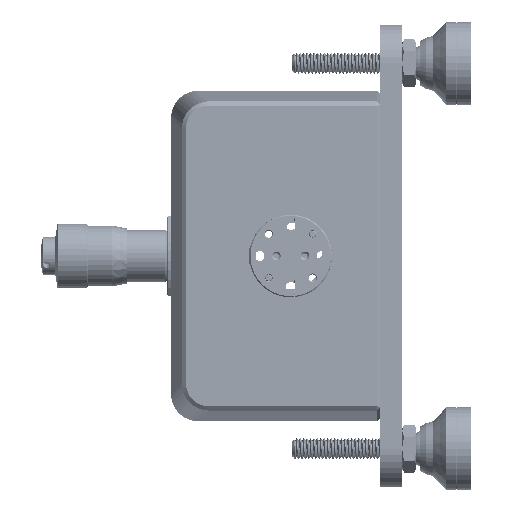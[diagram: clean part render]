
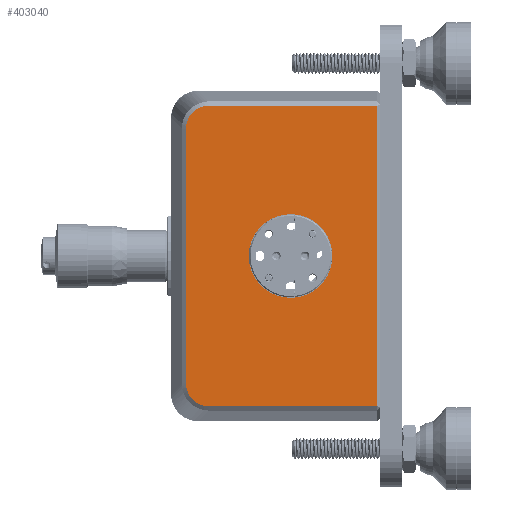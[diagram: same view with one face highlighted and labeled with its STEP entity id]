
A CAD part, left-side view. The second image highlights one B-rep face of the part: STEP entity #403040.
In plain terms, the highlighted planar face has unit normal (-1, 0, 0).
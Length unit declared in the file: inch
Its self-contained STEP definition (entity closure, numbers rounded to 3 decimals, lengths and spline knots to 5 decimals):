
#2801 = EDGE_CURVE ( 'NONE', #233888, #430731, #89693, .T. ) ;
#6025 = ORIENTED_EDGE ( 'NONE', *, *, #210479, .T. ) ;
#15592 = CARTESIAN_POINT ( 'NONE',  ( -4.25, -6.81171, 1.35964 ) ) ;
#16834 = EDGE_LOOP ( 'NONE', ( #356558, #6025, #86045, #141233, #225208, #369382 ) ) ;
#34963 = CARTESIAN_POINT ( 'NONE',  ( -4.25, -6.76124, -1.33884 ) ) ;
#39338 = LINE ( 'NONE', #339234, #397927 ) ;
#42676 = VERTEX_POINT ( 'NONE', #233859 ) ;
#44023 = CARTESIAN_POINT ( 'NONE',  ( -4.25, -6.6995, 1.28486 ) ) ;
#44945 = VECTOR ( 'NONE', #201628, 39.37008 ) ;
#48606 = AXIS2_PLACEMENT_3D ( 'NONE', #131659, #302181, #335109 ) ;
#48878 = VERTEX_POINT ( 'NONE', #101968 ) ;
#61180 = ORIENTED_EDGE ( 'NONE', *, *, #339350, .F. ) ;
#65697 = CARTESIAN_POINT ( 'NONE',  ( -4.25, -6.65778, -1.18364 ) ) ;
#67830 = CARTESIAN_POINT ( 'NONE',  ( -4.25, -6.738, -1.32336 ) ) ;
#71740 = B_SPLINE_CURVE_WITH_KNOTS ( 'NONE', 3,
 ( #147019, #144863, #15592, #313165, #208186, #44023, #177657, #413950, #278130, #114047 ),
 .UNSPECIFIED., .F., .F.,
 ( 4, 2, 2, 2, 4 ),
 ( 0., 0.25, 0.5, 0.75, 1. ),
 .UNSPECIFIED. ) ;
#86045 = ORIENTED_EDGE ( 'NONE', *, *, #2801, .T. ) ;
#89693 = LINE ( 'NONE', #258097, #328156 ) ;
#100655 = CARTESIAN_POINT ( 'NONE',  ( -4.25, -6.66321, -1.21114 ) ) ;
#101726 = LINE ( 'NONE', #235192, #252853 ) ;
#101968 = CARTESIAN_POINT ( 'NONE',  ( -4.25, -6.8667, 1.36508 ) ) ;
#114047 = CARTESIAN_POINT ( 'NONE',  ( -4.25, -6.65778, 1.15616 ) ) ;
#122862 = CARTESIAN_POINT ( 'NONE',  ( -4.25, -7.60786, 0.38 ) ) ;
#126834 = B_SPLINE_CURVE_WITH_KNOTS ( 'NONE', 3,
 ( #400547, #65697, #100655, #199189, #367630, #67830, #34963, #168599, #269073, #301950 ),
 .UNSPECIFIED., .F., .F.,
 ( 4, 2, 2, 2, 4 ),
 ( 0., 0.25, 0.5, 0.75, 1. ),
 .UNSPECIFIED. ) ;
#131659 = CARTESIAN_POINT ( 'NONE',  ( -4.25, -7.60786, 0. ) ) ;
#135782 = ORIENTED_EDGE ( 'NONE', *, *, #399791, .F. ) ;
#138609 = CARTESIAN_POINT ( 'NONE',  ( -4.25, -6.65778, -1.15616 ) ) ;
#141233 = ORIENTED_EDGE ( 'NONE', *, *, #248033, .T. ) ;
#144863 = CARTESIAN_POINT ( 'NONE',  ( -4.25, -6.83921, 1.36508 ) ) ;
#147019 = CARTESIAN_POINT ( 'NONE',  ( -4.25, -6.8667, 1.36508 ) ) ;
#149469 = DIRECTION ( 'NONE',  ( 0., 0., 1. ) ) ;
#155838 = CARTESIAN_POINT ( 'NONE',  ( -4.25, -6.8667, -1.36508 ) ) ;
#156044 = VERTEX_POINT ( 'NONE', #155838 ) ;
#159727 = DIRECTION ( 'NONE',  ( 0., 0., 1. ) ) ;
#165903 = VERTEX_POINT ( 'NONE', #138609 ) ;
#168599 = CARTESIAN_POINT ( 'NONE',  ( -4.25, -6.81171, -1.35965 ) ) ;
#168885 = CARTESIAN_POINT ( 'NONE',  ( -4.25, -7.47286, 1.36508 ) ) ;
#177657 = CARTESIAN_POINT ( 'NONE',  ( -4.25, -6.68401, 1.26162 ) ) ;
#178336 = DIRECTION ( 'NONE',  ( 0., 0., -1. ) ) ;
#187867 = CARTESIAN_POINT ( 'NONE',  ( -4.25, -8.39286, 1.36508 ) ) ;
#189812 = VERTEX_POINT ( 'NONE', #122862 ) ;
#198163 = FACE_OUTER_BOUND ( 'NONE', #16834, .T. ) ;
#199189 = CARTESIAN_POINT ( 'NONE',  ( -4.25, -6.68401, -1.26162 ) ) ;
#201628 = DIRECTION ( 'NONE',  ( 0., 1., 0. ) ) ;
#208186 = CARTESIAN_POINT ( 'NONE',  ( -4.25, -6.738, 1.32336 ) ) ;
#210479 = EDGE_CURVE ( 'NONE', #156044, #233888, #39338, .T. ) ;
#212470 = EDGE_CURVE ( 'NONE', #165903, #156044, #126834, .T. ) ;
#214588 = CARTESIAN_POINT ( 'NONE',  ( -4.25, -6.65778, 1.15616 ) ) ;
#225208 = ORIENTED_EDGE ( 'NONE', *, *, #413093, .T. ) ;
#228699 = FACE_BOUND ( 'NONE', #431712, .T. ) ;
#233859 = CARTESIAN_POINT ( 'NONE',  ( -4.25, -7.60786, -0.38 ) ) ;
#233888 = VERTEX_POINT ( 'NONE', #275835 ) ;
#235192 = CARTESIAN_POINT ( 'NONE',  ( -4.25, -6.65778, 0. ) ) ;
#245623 = DIRECTION ( 'NONE',  ( -1., 0., 0. ) ) ;
#248033 = EDGE_CURVE ( 'NONE', #430731, #48878, #265051, .T. ) ;
#252853 = VECTOR ( 'NONE', #178336, 39.37008 ) ;
#253540 = CARTESIAN_POINT ( 'NONE',  ( -4.25, -7.47286, 0. ) ) ;
#258097 = CARTESIAN_POINT ( 'NONE',  ( -4.25, -8.39286, 0. ) ) ;
#261538 = DIRECTION ( 'NONE',  ( 1., 0., 0. ) ) ;
#265051 = LINE ( 'NONE', #168885, #44945 ) ;
#269073 = CARTESIAN_POINT ( 'NONE',  ( -4.25, -6.83915, -1.36508 ) ) ;
#275835 = CARTESIAN_POINT ( 'NONE',  ( -4.25, -8.39286, -1.36508 ) ) ;
#278130 = CARTESIAN_POINT ( 'NONE',  ( -4.25, -6.65778, 1.1837 ) ) ;
#287856 = AXIS2_PLACEMENT_3D ( 'NONE', #253540, #261538, #395166 ) ;
#295511 = CIRCLE ( 'NONE', #358360, 0.38 ) ;
#301950 = CARTESIAN_POINT ( 'NONE',  ( -4.25, -6.8667, -1.36508 ) ) ;
#302181 = DIRECTION ( 'NONE',  ( -1., 0., 0. ) ) ;
#313165 = CARTESIAN_POINT ( 'NONE',  ( -4.25, -6.76124, 1.33885 ) ) ;
#327274 = PLANE ( 'NONE',  #287856 ) ;
#328156 = VECTOR ( 'NONE', #159727, 39.37008 ) ;
#335109 = DIRECTION ( 'NONE',  ( 0., 0., 1. ) ) ;
#339234 = CARTESIAN_POINT ( 'NONE',  ( -4.25, -7.47286, -1.36508 ) ) ;
#339350 = EDGE_CURVE ( 'NONE', #189812, #42676, #295511, .T. ) ;
#341710 = VERTEX_POINT ( 'NONE', #214588 ) ;
#356558 = ORIENTED_EDGE ( 'NONE', *, *, #212470, .T. ) ;
#358360 = AXIS2_PLACEMENT_3D ( 'NONE', #407810, #245623, #149469 ) ;
#362259 = CIRCLE ( 'NONE', #48606, 0.38 ) ;
#367630 = CARTESIAN_POINT ( 'NONE',  ( -4.25, -6.6995, -1.28485 ) ) ;
#369382 = ORIENTED_EDGE ( 'NONE', *, *, #403209, .T. ) ;
#376383 = DIRECTION ( 'NONE',  ( 0., -1., 0. ) ) ;
#395166 = DIRECTION ( 'NONE',  ( 0., 0., -1. ) ) ;
#397927 = VECTOR ( 'NONE', #376383, 39.37008 ) ;
#399791 = EDGE_CURVE ( 'NONE', #42676, #189812, #362259, .T. ) ;
#400547 = CARTESIAN_POINT ( 'NONE',  ( -4.25, -6.65778, -1.15616 ) ) ;
#403040 = ADVANCED_FACE ( 'NONE', ( #228699, #198163 ), #327274, .F. ) ;
#403209 = EDGE_CURVE ( 'NONE', #341710, #165903, #101726, .T. ) ;
#407810 = CARTESIAN_POINT ( 'NONE',  ( -4.25, -7.60786, 0. ) ) ;
#413093 = EDGE_CURVE ( 'NONE', #48878, #341710, #71740, .T. ) ;
#413950 = CARTESIAN_POINT ( 'NONE',  ( -4.25, -6.66321, 1.21115 ) ) ;
#430731 = VERTEX_POINT ( 'NONE', #187867 ) ;
#431712 = EDGE_LOOP ( 'NONE', ( #61180, #135782 ) ) ;
